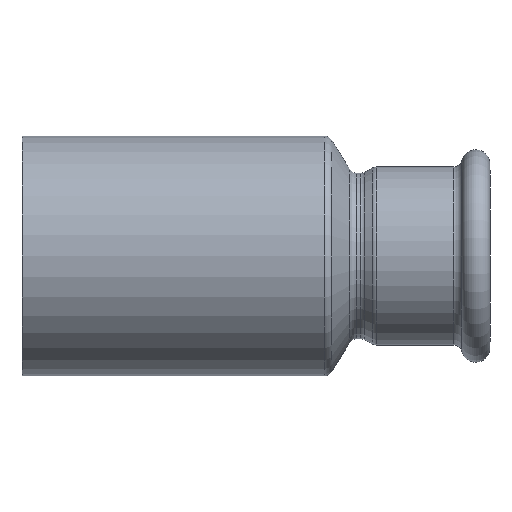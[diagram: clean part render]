
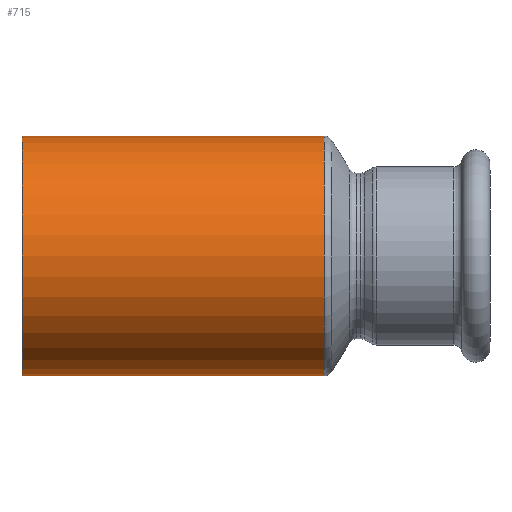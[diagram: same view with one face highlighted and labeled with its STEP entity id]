
A CAD part, front view. The second image highlights one B-rep face of the part: STEP entity #715.
In plain terms, the highlighted cylindrical face has radius 21 mm (diameter 42 mm), a partial arc.
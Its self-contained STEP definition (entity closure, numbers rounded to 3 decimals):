
#8 = AXIS2_PLACEMENT_3D ( 'NONE', #971, #209, #127 ) ;
#11 = CARTESIAN_POINT ( 'NONE',  ( 16.512, 0., -21. ) ) ;
#92 = CARTESIAN_POINT ( 'NONE',  ( -53.513, 0., 21. ) ) ;
#111 = VECTOR ( 'NONE', #814, 1000. ) ;
#114 = DIRECTION ( 'NONE',  ( 0., 0., 1. ) ) ;
#121 = CARTESIAN_POINT ( 'NONE',  ( 16.512, 0., 21. ) ) ;
#123 = DIRECTION ( 'NONE',  ( -1., 0., 0. ) ) ;
#127 = DIRECTION ( 'NONE',  ( 0., 0., 1. ) ) ;
#168 = CIRCLE ( 'NONE', #8, 21. ) ;
#179 = LINE ( 'NONE', #92, #869 ) ;
#209 = DIRECTION ( 'NONE',  ( -1., 0., 0. ) ) ;
#230 = DIRECTION ( 'NONE',  ( 0., 0., -1. ) ) ;
#235 = EDGE_CURVE ( 'NONE', #1161, #344, #179, .T. ) ;
#260 = EDGE_LOOP ( 'NONE', ( #595, #552, #1008, #1011 ) ) ;
#318 = CARTESIAN_POINT ( 'NONE',  ( 16.512, 0., 0. ) ) ;
#344 = VERTEX_POINT ( 'NONE', #1044 ) ;
#361 = DIRECTION ( 'NONE',  ( -1., 0., 0. ) ) ;
#425 = EDGE_CURVE ( 'NONE', #782, #1161, #1082, .T. ) ;
#488 = FACE_OUTER_BOUND ( 'NONE', #260, .T. ) ;
#498 = AXIS2_PLACEMENT_3D ( 'NONE', #765, #786, #114 ) ;
#552 = ORIENTED_EDGE ( 'NONE', *, *, #425, .T. ) ;
#557 = EDGE_CURVE ( 'NONE', #782, #1110, #1188, .T. ) ;
#595 = ORIENTED_EDGE ( 'NONE', *, *, #557, .F. ) ;
#609 = CARTESIAN_POINT ( 'NONE',  ( -53.513, 0., -21. ) ) ;
#632 = AXIS2_PLACEMENT_3D ( 'NONE', #318, #123, #230 ) ;
#669 = CARTESIAN_POINT ( 'NONE',  ( -36.488, 0., -21. ) ) ;
#715 = ADVANCED_FACE ( 'NONE', ( #488 ), #1160, .T. ) ;
#765 = CARTESIAN_POINT ( 'NONE',  ( -53.513, 0., 0. ) ) ;
#782 = VERTEX_POINT ( 'NONE', #11 ) ;
#786 = DIRECTION ( 'NONE',  ( -1., 0., 0. ) ) ;
#814 = DIRECTION ( 'NONE',  ( -1., 0., 0. ) ) ;
#869 = VECTOR ( 'NONE', #361, 1000. ) ;
#971 = CARTESIAN_POINT ( 'NONE',  ( -36.488, 0., 0. ) ) ;
#1008 = ORIENTED_EDGE ( 'NONE', *, *, #235, .T. ) ;
#1011 = ORIENTED_EDGE ( 'NONE', *, *, #1185, .F. ) ;
#1044 = CARTESIAN_POINT ( 'NONE',  ( -36.488, 0., 21. ) ) ;
#1082 = CIRCLE ( 'NONE', #632, 21. ) ;
#1110 = VERTEX_POINT ( 'NONE', #669 ) ;
#1160 = CYLINDRICAL_SURFACE ( 'NONE', #498, 21. ) ;
#1161 = VERTEX_POINT ( 'NONE', #121 ) ;
#1185 = EDGE_CURVE ( 'NONE', #1110, #344, #168, .T. ) ;
#1188 = LINE ( 'NONE', #609, #111 ) ;
